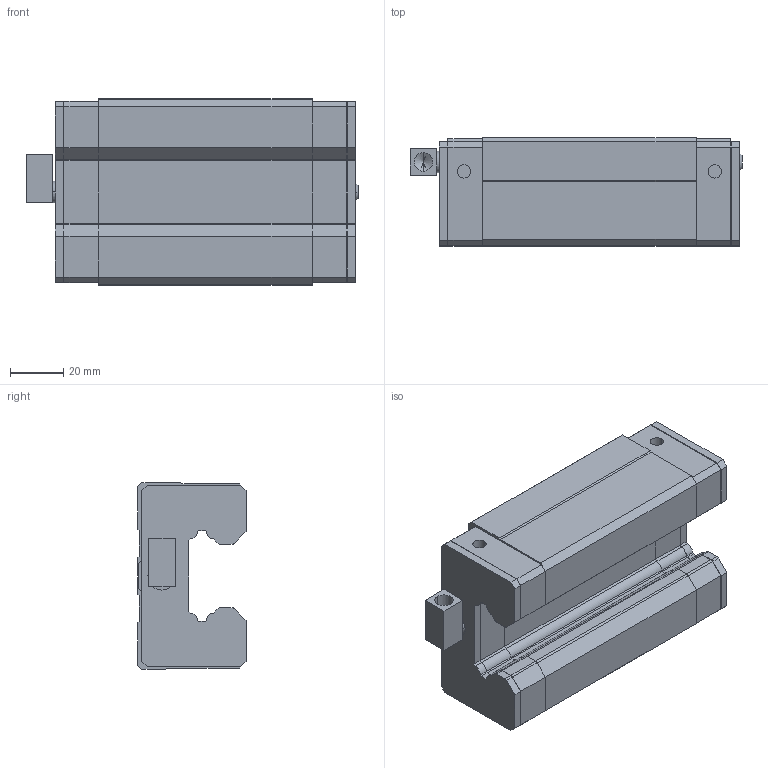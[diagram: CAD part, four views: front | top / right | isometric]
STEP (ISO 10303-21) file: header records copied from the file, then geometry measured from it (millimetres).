
FILE_DESCRIPTION (( 'STEP AP203' ), '1' );
FILE_NAME ('SGL35CA.STEP', '2025-06-27T05:27:31', ( 'Owner' ), ( 'Organization' ), 'SwSTEP 2.0', 'SolidWorks 2020', '' );
FILE_SCHEMA (( 'CONFIG_CONTROL_DESIGN' ));
Length unit declared in the file: millimetre
Products named in the file (1): SGL35CA
Bounding box: 124.4 x 40.5 x 70 mm (x, y, z)
Volume: 240094.5 mm3; surface area: 53778.6 mm2
Topology: 7 solids, 7 shells, 366 faces, 942 edges, 597 vertices
Faces by surface type: plane 246, cylinder 84, cone 34, torus 2
Entity records: 10982 total; most frequent: CARTESIAN_POINT 1952, ORIENTED_EDGE 1864, DIRECTION 1839, EDGE_CURVE 932, VECTOR 711, LINE 711, VERTEX_POINT 597, AXIS2_PLACEMENT_3D 564
